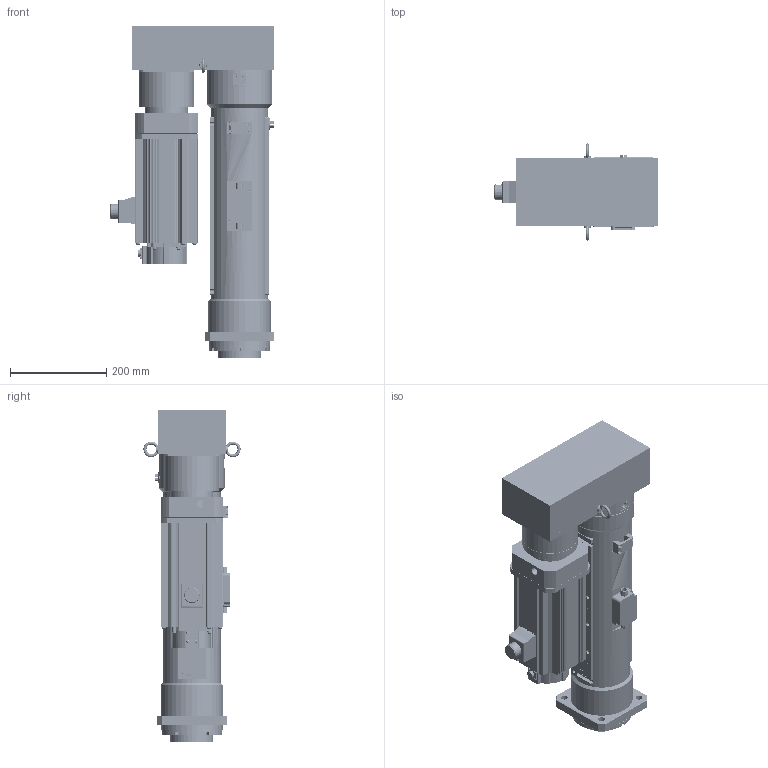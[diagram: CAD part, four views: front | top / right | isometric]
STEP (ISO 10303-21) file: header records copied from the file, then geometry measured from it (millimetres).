
FILE_DESCRIPTION( ('This file contains a STEP AP42 implementation' ,'as created by ZW3D STEP Interface translator.') ,'2;1' );
FILE_NAME( 'OACIS-DC-P050-300-175-A6V200_V20.51.stp' ,'26 423.172525', (''), ('ZWCAD Software Co.'), 'Version 1.0', 'ZW3D to STEP translator', '' );
FILE_SCHEMA(('AUTOMOTIVE_DESIGN { 1 0 10303 214 1 1 1 1 }'));
Length unit declared in the file: millimetre
Products named in the file (1): 0
Bounding box: 342.5 x 202.25 x 691 mm (x, y, z)
Volume: 12947019.7 mm3; surface area: 2045227 mm2
Topology: 55 solids, 55 shells, 3418 faces, 8757 edges, 5604 vertices
Faces by surface type: cylinder 1691, plane 1243, cone 351, torus 101, bspline 28, sphere 4
Full cylindrical faces by diameter (mm): 1.567 x4, 2 x1, 2.459 x1, 3.3 x83, 4.2 x4, 4.3 x26, 4.5 x14, 4.917 x20, 5 x1, 5.3 x4, 5.5 x4, 6 x8, 6.5 x4, 6.647 x6, 6.8 x41, 7 x4, 8 x28, 8.4 x8, 8.5 x4, 9 x26, 9.5 x4, 9.78 x8, 10 x3, 10.1 x4, 10.106 x1, 10.2 x16, 10.5 x4, 12 x1, 14 x4, 14.8 x1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
Entity records: 121963 total; most frequent: CARTESIAN_POINT 29143, DIRECTION 19447, ORIENTED_EDGE 17302, EDGE_CURVE 8651, AXIS2_PLACEMENT_3D 7748, VERTEX_POINT 5601, CIRCLE 4338, EDGE_LOOP 4064
